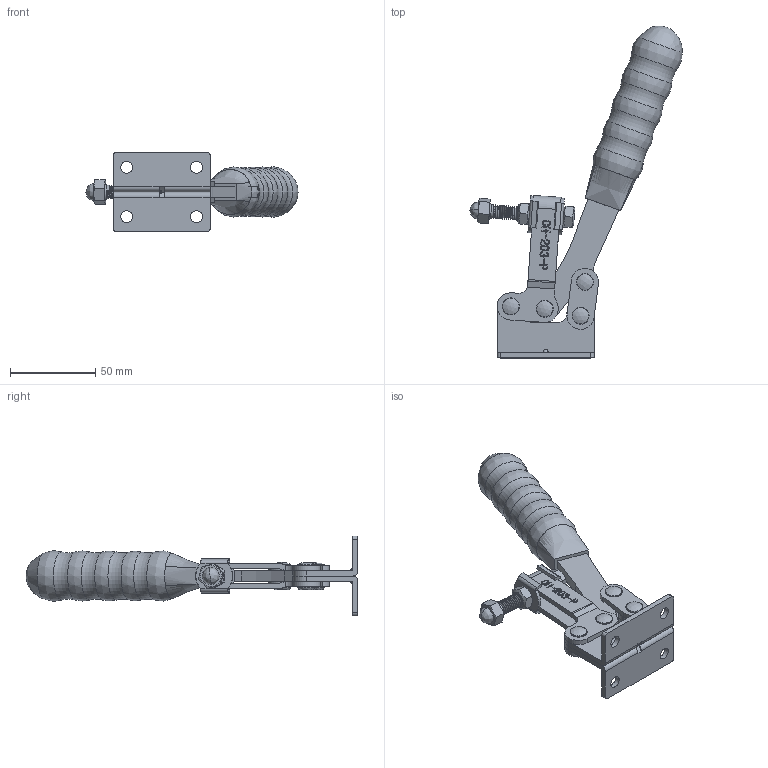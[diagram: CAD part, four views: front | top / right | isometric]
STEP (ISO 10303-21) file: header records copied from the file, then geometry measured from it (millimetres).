
FILE_DESCRIPTION(/* description */ ('STEP AP203'),/* implementation_level */ '2;1');
FILE_NAME(/* name */ 'E:\STRONA\Horizontal toggle clamp\CH-203-P\CH-203-P_OTWARTY.stp',/* time_stamp */ '2019-01-15T13:36:34+01:00',/* author */ ('Admin'),/* organization */ ('Î¢ÈíÖÐ¹ú'),/* preprocessor_version */ 'ST-DEVELOPER v17.2',/* originating_system */ 'Autodesk Inventor 2019',/* authorisation */ '');
FILE_SCHEMA (('AUTOMOTIVE_DESIGN { 1 0 10303 214 3 1 1 }'));
Products named in the file (11): CH-203-P_OTWARTY; 203-P-01; 203-P-02; FW516; 56212-02; 085012; 02; 203-P-03; 203-P-07; 203-F-04; 225-D-06
Assembly tree (16 placements, depth 3):
  CH-203-P_OTWARTY
    203-P-01
    203-P-02
    225-D-06  x4
    FW516  x2
    56212-02  x2
    085012
    02
      203-P-03
      203-P-07
    203-F-04  x2
Bounding box: 124.72 x 195.17 x 47 mm (x, y, z)
Volume: 105428 mm3; surface area: 53282.7 mm2
Topology: 16 solids, 18 shells, 658 faces, 1814 edges, 1226 vertices
Faces by surface type: plane 285, bspline 190, cylinder 142, torus 21, cone 16, sphere 4
Full cylindrical faces by diameter (mm): 2.8 x1, 4.4 x1, 4.833 x4, 6.3 x10, 6.4 x14, 7 x4, 8 x37, 8.1 x2, 10 x8
Entity records: 40925 total; most frequent: CARTESIAN_POINT 26945, ORIENTED_EDGE 3188, DIRECTION 2201, EDGE_CURVE 1594, VERTEX_POINT 1075, LINE 865, VECTOR 865, AXIS2_PLACEMENT_3D 668
